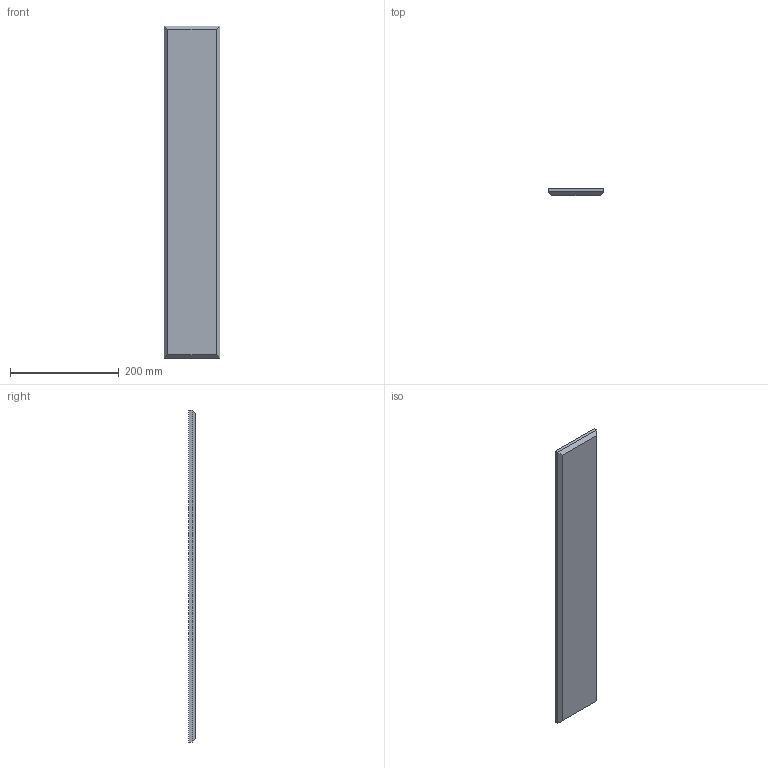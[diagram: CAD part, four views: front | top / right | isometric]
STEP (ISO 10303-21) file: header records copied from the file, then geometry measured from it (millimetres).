
FILE_DESCRIPTION(/* description */ (''),/* implementation_level */ '2;1');
FILE_NAME(/* name */ 'PET PLANQ_Beveled_4x24',/* time_stamp */ '2024-10-31T13:55:31-05:00',/* author */ (''),/* organization */ (''),/* preprocessor_version */ 'ST-DEVELOPER v19.2',/* originating_system */ 'Rhino 8.4',/* authorisation */ '');
FILE_SCHEMA (('CONFIG_CONTROL_DESIGN'));
Length unit declared in the file: inch
Products named in the file (1): Document
Bounding box: 101.6 x 12.7 x 609.6 mm (x, y, z)
Volume: 758243.1 mm3; surface area: 136577.4 mm2
Topology: 1 solids, 1 shells, 10 faces, 20 edges, 12 vertices
Faces by surface type: plane 10
Entity records: 310 total; most frequent: CARTESIAN_POINT 64, ORIENTED_EDGE 40, EDGE_CURVE 20, B_SPLINE_CURVE_WITH_KNOTS 20, DIRECTION 14, VERTEX_POINT 12, AXIS2_PLACEMENT_3D 12, ADVANCED_FACE 10
